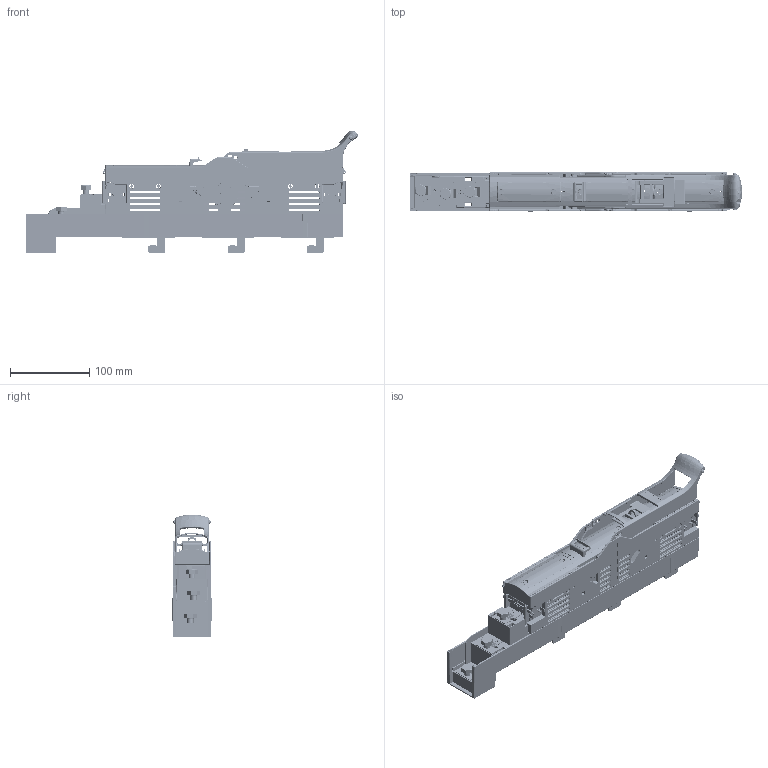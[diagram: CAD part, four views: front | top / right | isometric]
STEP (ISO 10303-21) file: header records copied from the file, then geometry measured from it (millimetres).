
FILE_DESCRIPTION (( 'STEP AP214' ), '1' );
FILE_NAME ('FSD00-33K-F__CS-FS00-3H__2.step', '2014-11-13T12:45:00', ( '' ), ( '' ), 'SwSTEP 2.0', 'SolidWorks 2011', '' );
FILE_SCHEMA (( 'AUTOMOTIVE_DESIGN' ));
Length unit declared in the file: millimetre
Products named in the file (1): FSD00-33K-F__CS-FS00-3H__2
Bounding box: 418.43 x 49.8 x 154.65 mm (x, y, z)
Volume: 435303.9 mm3; surface area: 488945.1 mm2
Topology: 32 solids, 32 shells, 10147 faces, 27414 edges, 17077 vertices
Faces by surface type: plane 4556, cylinder 2861, cone 1000, torus 821, bspline 682, sphere 227
Entity records: 479783 total; most frequent: CARTESIAN_POINT 128099, ORIENTED_EDGE 54130, DIRECTION 44459, EDGE_CURVE 27065, VERTEX_POINT 16979, LINE 15909, VECTOR 15909, AXIS2_PLACEMENT_3D 14275
